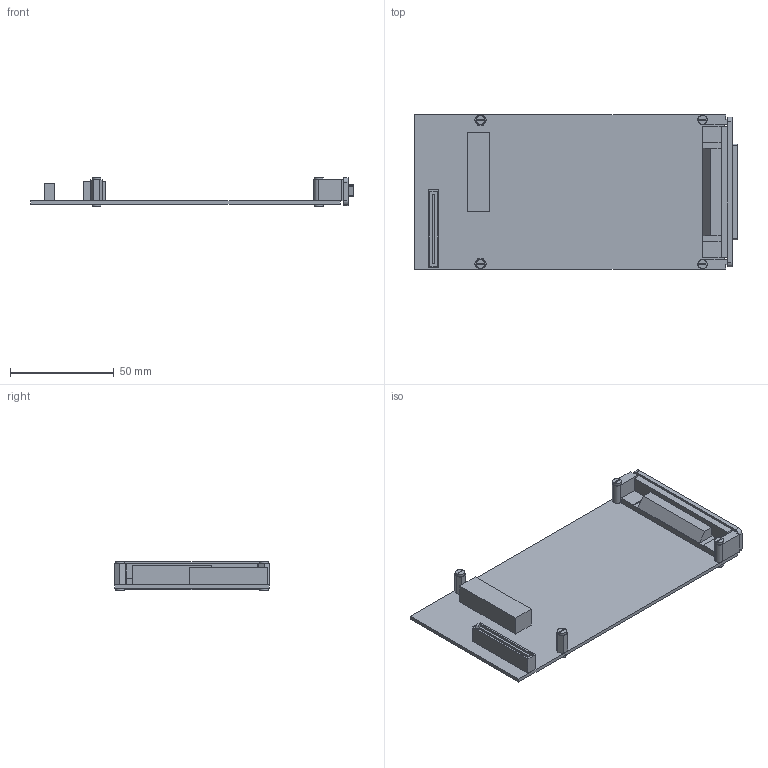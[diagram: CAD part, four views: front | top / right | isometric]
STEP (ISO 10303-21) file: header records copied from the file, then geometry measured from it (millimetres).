
FILE_DESCRIPTION (( 'STEP AP214' ), '1' );
FILE_NAME ('XMC-SIO4BX-256K-R-1.STEP', '2022-06-08T00:11:11', ( '' ), ( '' ), 'SwSTEP 2.0', 'SolidWorks 2021', '' );
FILE_SCHEMA (( 'AUTOMOTIVE_DESIGN' ));
Length unit declared in the file: inch
Products named in the file (1): XMC-SIO4BX-256K-R-1
Bounding box: 155.45 x 74.17 x 14.41 mm (x, y, z)
Volume: 33218.4 mm3; surface area: 33768.7 mm2
Topology: 15 solids, 15 shells, 196 faces, 459 edges, 306 vertices
Faces by surface type: plane 143, cylinder 53
Entity records: 8375 total; most frequent: DIRECTION 991, CARTESIAN_POINT 962, ORIENTED_EDGE 918, EDGE_CURVE 459, AXIS2_PLACEMENT_3D 335, LINE 321, VECTOR 321, VERTEX_POINT 306
